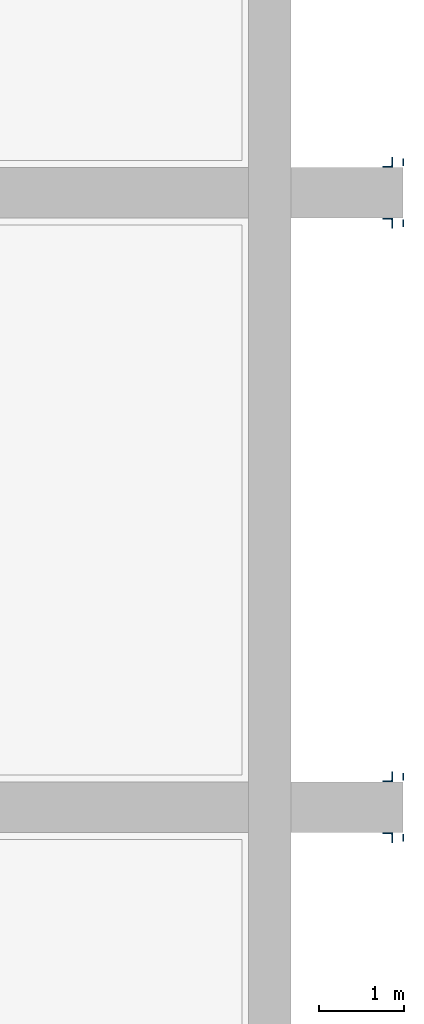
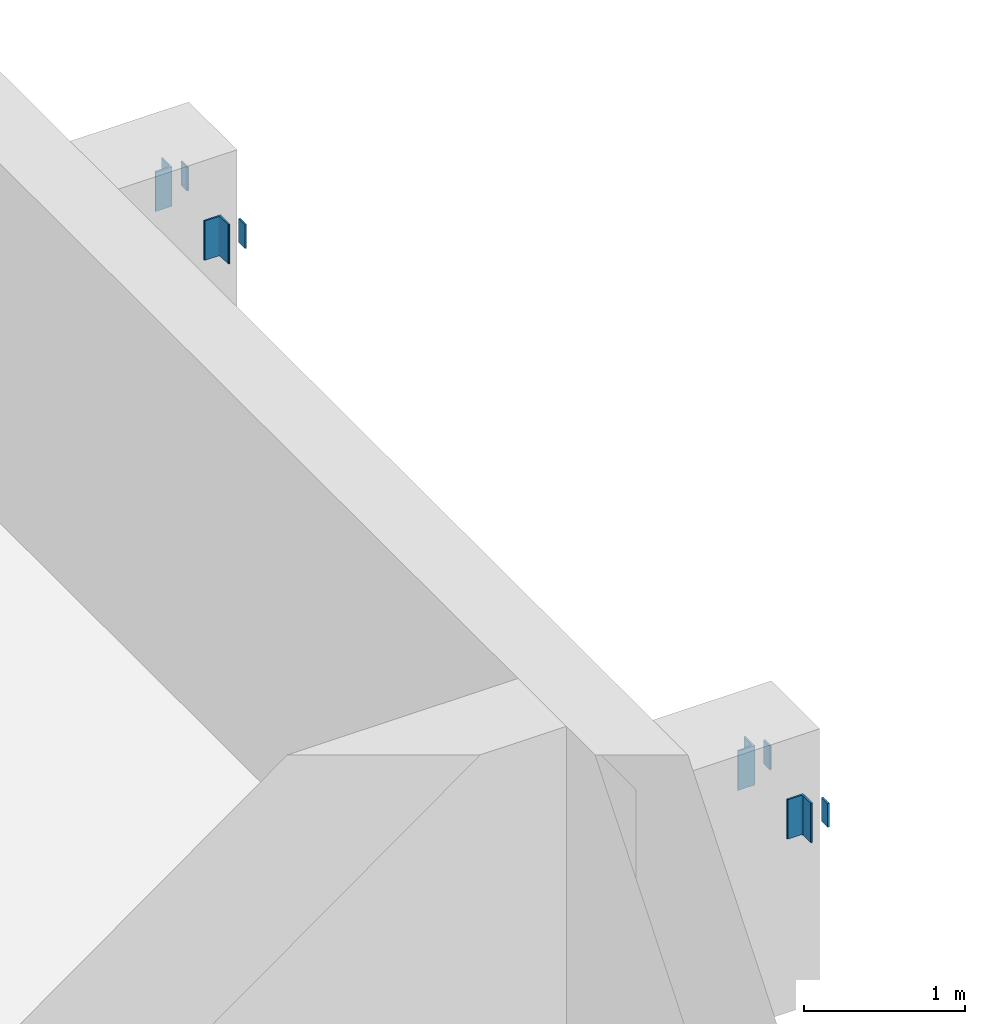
# One storey, part 10 of 22: 8 columns.
"""IFC2X3 building model written with IfcOpenShell, lengths in millimetres."""

from ifc_helpers import new_model, entity, si_unit, converted_unit, derived_unit, direction, frame, frame_2d, origin, origin_2d_with_axis, place, context, subcontext, project, spatial, polyline, circle_curve, parameter, trimmed, segment, composite_curve, rectangle, outline, extrude, source, transform, mapped, material, type_object, type_shapes, element, save


model = new_model("IFC2X3")

# Units and contexts
model_context = context("Model", 3, precision=0.01, world=origin(), true_north=direction((6.12303176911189e-17, 1.0)))
body_context = subcontext(model_context, "Body", "Model", "MODEL_VIEW")
ifc_project = project(units=[si_unit("LENGTHUNIT", "METRE", prefix="MILLI"), si_unit("AREAUNIT", "SQUARE_METRE"), si_unit("VOLUMEUNIT", "CUBIC_METRE"), converted_unit("PLANEANGLEUNIT", "DEGREE", entity("IfcRatioMeasure", 0.0174532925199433), si_unit("PLANEANGLEUNIT", "RADIAN"), dimensions=[0, 0, 0, 0, 0, 0, 0]), si_unit("MASSUNIT", "GRAM", prefix="KILO"), derived_unit("MASSDENSITYUNIT", [(si_unit("MASSUNIT", "GRAM", prefix="KILO"), 1), (si_unit("LENGTHUNIT", "METRE"), -3)]), si_unit("TIMEUNIT", "SECOND"), si_unit("FREQUENCYUNIT", "HERTZ"), si_unit("THERMODYNAMICTEMPERATUREUNIT", "DEGREE_CELSIUS"), derived_unit("THERMALTRANSMITTANCEUNIT", [(si_unit("MASSUNIT", "GRAM", prefix="KILO"), 1), (si_unit("THERMODYNAMICTEMPERATUREUNIT", "KELVIN"), -1), (si_unit("TIMEUNIT", "SECOND"), -3)]), derived_unit("VOLUMETRICFLOWRATEUNIT", [(si_unit("LENGTHUNIT", "METRE"), 3), (si_unit("TIMEUNIT", "SECOND"), -1)]), si_unit("ELECTRICCURRENTUNIT", "AMPERE"), si_unit("ELECTRICVOLTAGEUNIT", "VOLT"), si_unit("POWERUNIT", "WATT"), si_unit("FORCEUNIT", "NEWTON", prefix="KILO"), si_unit("ILLUMINANCEUNIT", "LUX"), si_unit("LUMINOUSFLUXUNIT", "LUMEN"), si_unit("LUMINOUSINTENSITYUNIT", "CANDELA"), derived_unit("USERDEFINED", [(si_unit("MASSUNIT", "GRAM", prefix="KILO"), -1), (si_unit("LENGTHUNIT", "METRE"), -2), (si_unit("TIMEUNIT", "SECOND"), 3), (si_unit("LUMINOUSFLUXUNIT", "LUMEN"), 1)]), derived_unit("LINEARVELOCITYUNIT", [(si_unit("LENGTHUNIT", "METRE"), 1), (si_unit("TIMEUNIT", "SECOND"), -1)]), si_unit("PRESSUREUNIT", "PASCAL"), derived_unit("USERDEFINED", [(si_unit("LENGTHUNIT", "METRE"), -2), (si_unit("MASSUNIT", "GRAM", prefix="KILO"), 1), (si_unit("TIMEUNIT", "SECOND"), -2)])], contexts=[model_context])

# Site, building, storey
site_placement = place(None, origin())
site = spatial("IfcSite", under=ifc_project, at=site_placement, Name="Default", CompositionType="ELEMENT")
building_placement = place(site_placement, origin())
building = spatial("IfcBuilding", under=site, at=building_placement, Name="niet gebruiken", CompositionType="ELEMENT")
storey_placement = place(building_placement, frame((0.0, 0.0, 15000.0)))
storey = spatial("IfcBuildingStorey", under=building, at=storey_placement, Name="04 vierde verdieping", CompositionType="ELEMENT", Elevation=15000.0)

# Columns
ifc_material = material(Name="NLRS_h2_staal")
column_type_1 = type_object("IfcColumnType", Name="kolomgelijzijdig hoekprofiel LEQU_120x120x12_!", PredefinedType="COLUMN", material=ifc_material)
shared_shape_1 = source(origin(), body_context, "Body", "SweptSolid", [
    extrude(outline(composite_curve([segment(polyline([(-74.6666666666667, -45.3333333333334), (45.3333333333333, -45.3333333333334)]), True, "CONTINUOUS"), segment(polyline([(45.3333333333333, -45.3333333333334), (45.3333333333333, 74.6666666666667)]), True, "CONTINUOUS"), segment(polyline([(45.3333333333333, 74.6666666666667), (41.3333333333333, 74.6666666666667)]), True, "CONTINUOUS"), segment(trimmed(circle_curve(frame_2d((41.3333333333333, 66.6666666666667), x_axis=(0.0, 1.0)), 8.0), [parameter(0.0)], [parameter(90.0)], True, "PARAMETER"), True, "CONTINUOUS"), segment(polyline([(33.3333333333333, 66.6666666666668), (33.3333333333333, -17.3333333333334)]), True, "CONTINUOUS"), segment(trimmed(circle_curve(frame_2d((17.3333333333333, -17.3333333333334), x_axis=(1.0, 0.0)), 16.0), [parameter(270.0)], [parameter(0.0)], True, "PARAMETER"), False, "CONTINUOUS"), segment(polyline([(17.3333333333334, -33.3333333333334), (-66.6666666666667, -33.3333333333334)]), True, "CONTINUOUS"), segment(trimmed(circle_curve(frame_2d((-66.6666666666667, -41.3333333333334), x_axis=(0.0, 1.0)), 7.99999999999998), [parameter(0.0)], [parameter(90.0000000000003)], True, "PARAMETER"), True, "CONTINUOUS"), segment(polyline([(-74.6666666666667, -41.3333333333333), (-74.6666666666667, -45.3333333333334)]), True, "CONTINUOUS")], self_intersect=False)), frame((32.8333333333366, 32.8333333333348, 16235.0), z_axis=(0.0, 0.0, 1.0), x_axis=(0.0, -1.0, 0.0)), (0.0, 0.0, 1.0), 300.00000000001),
])
type_shapes(column_type_1, [shared_shape_1])
for number, where, z_axis, x_axis in (
    (1, (158667.5, 17187.4999999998, -15000.0), (0.0, 0.0, 1.0), (-1.0, 0.0, 0.0)),
    (2, (158667.5, 24437.4999999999, -15000.0), (0.0, 0.0, 1.0), (-1.0, 0.0, 0.0)),
):
    element("IfcColumn", number, at=place(storey_placement, frame(where, z_axis=z_axis, x_axis=x_axis)), inside=storey, type_object=column_type_1, material=ifc_material, Name="NLRS_28.11_SCO_TLB_stalen kolom hoekprofiel gelijkzijdig_gen:kolomgelijzijdig hoekprofiel LEQU_120x120x12_!", ObjectType="kolomgelijzijdig hoekprofiel LEQU_120x120x12_!", context=body_context, shape_type="MappedRepresentation", body=[
        mapped(shared_shape_1, transform((0.0, 0.0, 0.0), scale=1.0)),
    ])
column_type_2 = type_object("IfcColumnType", Name="kolomgelijzijdig hoekprofiel LEQU_120x120x12_!", PredefinedType="COLUMN", material=ifc_material)
shared_shape_2 = source(origin(), body_context, "Body", "SweptSolid", [
    extrude(outline(composite_curve([segment(polyline([(-45.3333333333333, -45.3333333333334), (74.6666666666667, -45.3333333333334)]), True, "CONTINUOUS"), segment(polyline([(74.6666666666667, -45.3333333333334), (74.6666666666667, -41.3333333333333)]), True, "CONTINUOUS"), segment(trimmed(circle_curve(frame_2d((66.6666666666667, -41.3333333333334), x_axis=(1.0, 0.0)), 7.99999999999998), [parameter(0.0)], [parameter(90.0000000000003)], True, "PARAMETER"), True, "CONTINUOUS"), segment(polyline([(66.6666666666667, -33.3333333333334), (-17.3333333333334, -33.3333333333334)]), True, "CONTINUOUS"), segment(trimmed(circle_curve(frame_2d((-17.3333333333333, -17.3333333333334), x_axis=(0.0, -1.0)), 16.0), [parameter(270.0)], [parameter(0.0)], True, "PARAMETER"), False, "CONTINUOUS"), segment(polyline([(-33.3333333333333, -17.3333333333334), (-33.3333333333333, 66.6666666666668)]), True, "CONTINUOUS"), segment(trimmed(circle_curve(frame_2d((-41.3333333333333, 66.6666666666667), x_axis=(1.0, 0.0)), 8.0), [parameter(0.0)], [parameter(90.0)], True, "PARAMETER"), True, "CONTINUOUS"), segment(polyline([(-41.3333333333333, 74.6666666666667), (-45.3333333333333, 74.6666666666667)]), True, "CONTINUOUS"), segment(polyline([(-45.3333333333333, 74.6666666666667), (-45.3333333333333, -45.3333333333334)]), True, "CONTINUOUS")], self_intersect=False)), frame((32.8333333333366, -32.8333333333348, 16235.0), z_axis=(0.0, 0.0, 1.0), x_axis=(0.0, -1.0, 0.0)), (0.0, 0.0, 1.0), 300.00000000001),
])
type_shapes(column_type_2, [shared_shape_2])
for number, where, z_axis, x_axis in (
    (3, (158667.5, 17812.5, -15000.0), (0.0, 0.0, 1.0), (-1.0, 0.0, 0.0)),
    (4, (158667.5, 25062.5000000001, -15000.0), (0.0, 0.0, 1.0), (-1.0, 0.0, 0.0)),
):
    element("IfcColumn", number, at=place(storey_placement, frame(where, z_axis=z_axis, x_axis=x_axis)), inside=storey, type_object=column_type_2, material=ifc_material, Name="NLRS_28.11_SCO_TLB_stalen kolom hoekprofiel gelijkzijdig_gen:kolomgelijzijdig hoekprofiel LEQU_120x120x12_!", ObjectType="kolomgelijzijdig hoekprofiel LEQU_120x120x12_!", context=body_context, shape_type="MappedRepresentation", body=[
        mapped(shared_shape_2, transform((0.0, 0.0, 0.0), scale=1.0)),
    ])
column_type_3 = type_object("IfcColumnType", Name="kolom stripstaal RECT_80x12", PredefinedType="COLUMN", material=ifc_material)
shared_shape_3 = source(origin(), body_context, "Body", "SweptSolid", [
    extrude(rectangle(XDim=79.9999999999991, YDim=11.9999999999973, at=origin_2d_with_axis()), frame((158806.0, 17860.0, 16295.0), z_axis=(0.0, 0.0, 1.0), x_axis=(0.0, -1.0, 0.0)), (0.0, 0.0, 1.0), 180.000000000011),
])
type_shapes(column_type_3, [shared_shape_3])
column_1_placement = place(storey_placement, frame((0.0, 0.0, -15000.0)))
element("IfcColumn", 5, at=column_1_placement, inside=storey, type_object=column_type_3, material=ifc_material, Name="NLRS_28.11_SCO_TLB_stalen kolom stripstaal_gen:kolom stripstaal RECT_80x12", ObjectType="kolom stripstaal RECT_80x12", context=body_context, shape_type="MappedRepresentation", body=[
    mapped(shared_shape_3, transform((0.0, 0.0, 0.0), scale=1.0)),
])
column_type_4 = type_object("IfcColumnType", Name="kolom stripstaal RECT_80x12", PredefinedType="COLUMN", material=ifc_material)
shared_shape_4 = source(origin(), body_context, "Body", "SweptSolid", [
    extrude(rectangle(XDim=79.9999999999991, YDim=11.9999999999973, at=frame_2d((-2.16715534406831e-12, 0.0), x_axis=(1.0, 0.0))), frame((158806.0, 25110.0, 16295.0), z_axis=(0.0, 0.0, 1.0), x_axis=(0.0, -1.0, 0.0)), (0.0, 0.0, 1.0), 180.000000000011),
])
type_shapes(column_type_4, [shared_shape_4])
column_2_placement = place(storey_placement, frame((0.0, 0.0, -15000.0)))
element("IfcColumn", 6, at=column_2_placement, inside=storey, type_object=column_type_4, material=ifc_material, Name="NLRS_28.11_SCO_TLB_stalen kolom stripstaal_gen:kolom stripstaal RECT_80x12", ObjectType="kolom stripstaal RECT_80x12", context=body_context, shape_type="MappedRepresentation", body=[
    mapped(shared_shape_4, transform((0.0, 0.0, 0.0), scale=1.0)),
])
column_type_5 = type_object("IfcColumnType", Name="kolom stripstaal RECT_80x12", PredefinedType="COLUMN", material=ifc_material)
shared_shape_5 = source(origin(), body_context, "Body", "SweptSolid", [
    extrude(rectangle(XDim=79.999999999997, YDim=12.0000000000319, at=frame_2d((2.16360263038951e-12, 0.0), x_axis=(1.0, 0.0))), frame((158806.0, 17140.0, 16295.0), z_axis=(0.0, 0.0, 1.0), x_axis=(0.0, -1.0, 0.0)), (0.0, 0.0, 1.0), 180.000000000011),
])
type_shapes(column_type_5, [shared_shape_5])
column_3_placement = place(storey_placement, frame((0.0, 0.0, -15000.0)))
element("IfcColumn", 7, at=column_3_placement, inside=storey, type_object=column_type_5, material=ifc_material, Name="NLRS_28.11_SCO_TLB_stalen kolom stripstaal_gen:kolom stripstaal RECT_80x12", ObjectType="kolom stripstaal RECT_80x12", context=body_context, shape_type="MappedRepresentation", body=[
    mapped(shared_shape_5, transform((0.0, 0.0, 0.0), scale=1.0)),
])
column_type_6 = type_object("IfcColumnType", Name="kolom stripstaal RECT_80x12", PredefinedType="COLUMN", material=ifc_material)
shared_shape_6 = source(origin(), body_context, "Body", "SweptSolid", [
    extrude(rectangle(XDim=80.0000000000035, YDim=12.0000000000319, at=frame_2d((2.16715534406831e-12, 0.0), x_axis=(1.0, 0.0))), frame((158806.0, 24390.0, 16295.0), z_axis=(0.0, 0.0, 1.0), x_axis=(0.0, -1.0, 0.0)), (0.0, 0.0, 1.0), 180.000000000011),
])
type_shapes(column_type_6, [shared_shape_6])
column_4_placement = place(storey_placement, frame((0.0, 0.0, -15000.0)))
element("IfcColumn", 8, at=column_4_placement, inside=storey, type_object=column_type_6, material=ifc_material, Name="NLRS_28.11_SCO_TLB_stalen kolom stripstaal_gen:kolom stripstaal RECT_80x12", ObjectType="kolom stripstaal RECT_80x12", context=body_context, shape_type="MappedRepresentation", body=[
    mapped(shared_shape_6, transform((0.0, 0.0, 0.0), scale=1.0)),
])

save(model, "model.ifc")
